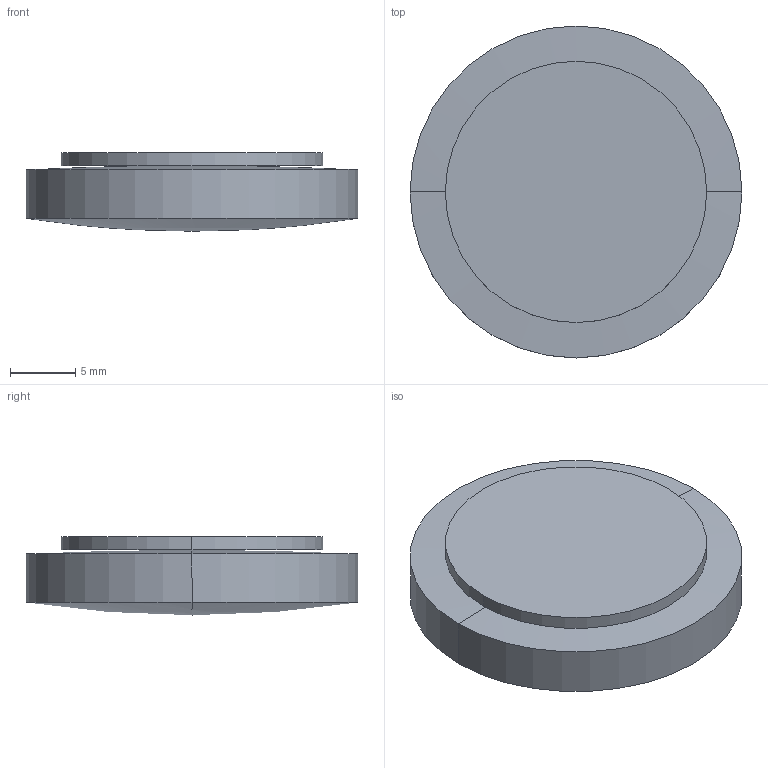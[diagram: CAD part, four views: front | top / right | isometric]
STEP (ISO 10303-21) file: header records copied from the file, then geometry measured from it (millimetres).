
FILE_DESCRIPTION(('STEP AP214'),'1');
FILE_NAME('LLF-25160.STEP','2020-03-09T17:41:24',(' '),(' '),'Spatial InterOp 3D',' ',' ');
FILE_SCHEMA(('AUTOMOTIVE_DESIGN { 1 0 10303 214 1 1 1 1 }'));
Length unit declared in the file: millimetre
Products named in the file (1): 1
Bounding box: 25.4 x 25.4 x 6 mm (x, y, z)
Volume: 2523.8 mm3; surface area: 2004.7 mm2
Topology: 2 solids, 2 shells, 10 faces, 20 edges, 10 vertices
Faces by surface type: sphere 4, cylinder 4, plane 2
Entity records: 255 total; most frequent: DIRECTION 52, CARTESIAN_POINT 38, ORIENTED_EDGE 32, AXIS2_PLACEMENT_3D 24, EDGE_CURVE 16, CIRCLE 12, ADVANCED_FACE 10, FACE_OUTER_BOUND 10
